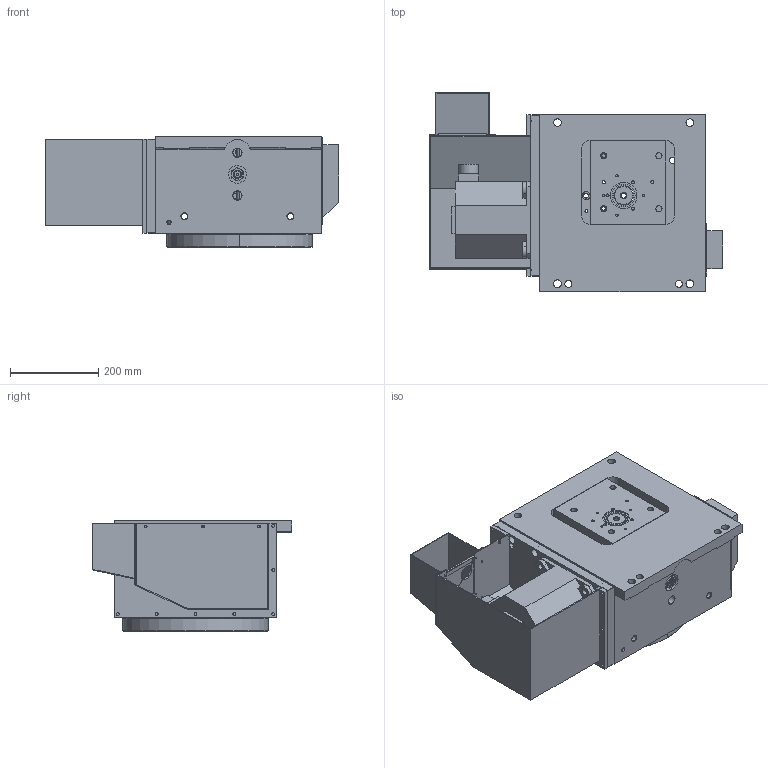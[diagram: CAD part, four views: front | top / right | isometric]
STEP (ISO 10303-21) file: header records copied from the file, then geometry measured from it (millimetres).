
FILE_DESCRIPTION (( 'STEP AP203' ), '1' );
FILE_NAME ('15121386MDO333R-22.STEP', '2020-12-05T05:27:21', ( '' ), ( '' ), 'SwSTEP 2.0', 'SolidWorks 2019', '' );
FILE_SCHEMA (( 'CONFIG_CONTROL_DESIGN' ));
Length unit declared in the file: millimetre
Products named in the file (1): 15121386MDO333R-22
Bounding box: 664.3 x 451.9 x 250 mm (x, y, z)
Surface area: 1594147.7 mm2 (no closed solid volume)
Topology: 0 solids, 36 shells, 568 faces, 1844 edges, 1311 vertices
Faces by surface type: cylinder 313, plane 186, cone 59, torus 9, bspline 1
Entity records: 21115 total; most frequent: CARTESIAN_POINT 3977, DIRECTION 3900, ORIENTED_EDGE 2987, EDGE_CURVE 1844, AXIS2_PLACEMENT_3D 1509, VERTEX_POINT 1311, CIRCLE 941, VECTOR 882
